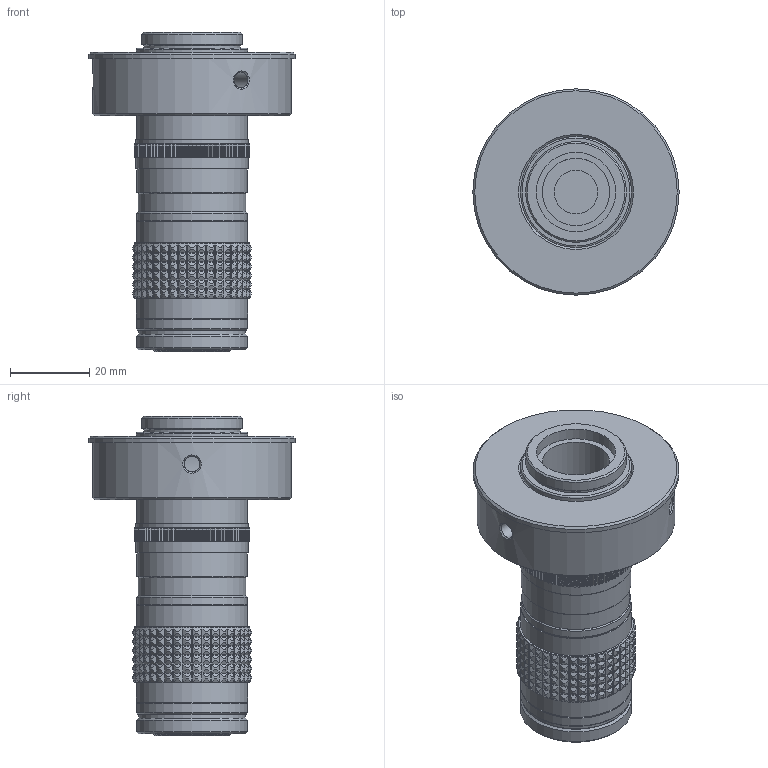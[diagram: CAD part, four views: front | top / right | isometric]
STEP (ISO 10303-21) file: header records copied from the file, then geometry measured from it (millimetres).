
FILE_DESCRIPTION(('STEP AP214'),'1');
FILE_NAME('SDS-L4.stp','2024-03-14T09:33:24',(' '),(' '),'Spatial InterOp 3D',' ',' ');
FILE_SCHEMA(('AUTOMOTIVE_DESIGN { 1 0 10303 214 1 1 1 1 }'));
Length unit declared in the file: metre
Products named in the file (2): SDS-L4; Component1
Assembly tree (1 placements, depth 2):
  SDS-L4
    Component1
Bounding box: 52 x 52 x 80.4 mm (x, y, z)
Volume: 62427.3 mm3; surface area: 16184.5 mm2
Topology: 1 solids, 1 shells, 1577 faces, 3987 edges, 2624 vertices
Faces by surface type: plane 662, cone 473, cylinder 438, bspline 3, torus 1
Full cylindrical faces by diameter (mm): 4 x3, 11 x1, 12 x1, 17 x1, 19.5 x1, 20 x1, 24.4 x1, 25 x1, 25.4 x1, 26.8 x1, 27.1 x1, 27.8 x2, 28 x6, 28.3 x2, 29 x1, 36 x1, 50 x1, 52 x1
Entity records: 80783 total; most frequent: CARTESIAN_POINT 11191, ORIENTED_EDGE 7856, DIRECTION 7534, STYLED_ITEM 5506, PRESENTATION_STYLE_ASSIGNMENT 5506, COLOUR_RGB 5506, EDGE_CURVE 3928, CURVE_STYLE 3928
